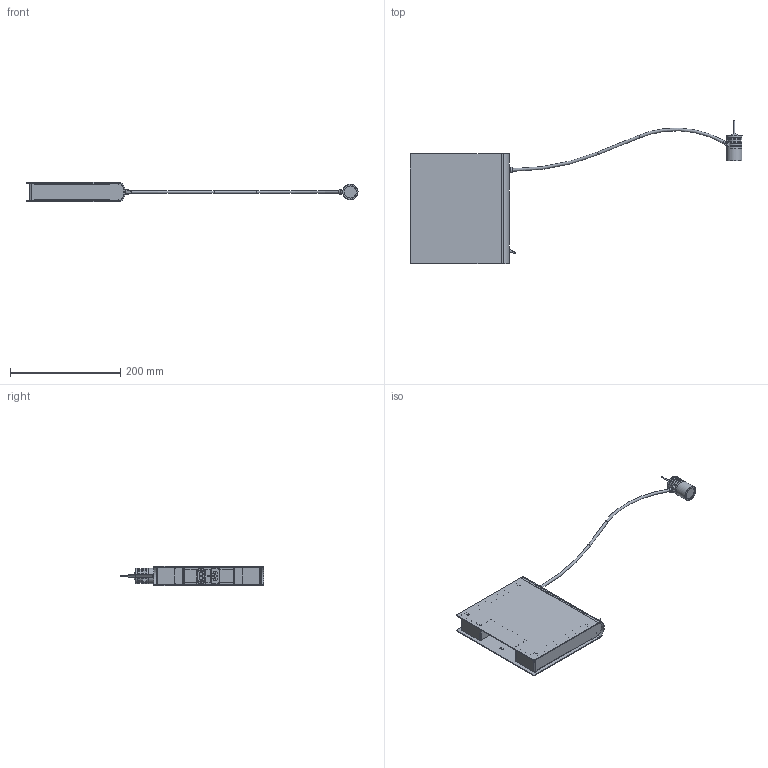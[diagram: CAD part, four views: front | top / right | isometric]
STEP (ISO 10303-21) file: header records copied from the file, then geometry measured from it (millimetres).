
FILE_DESCRIPTION (( 'STEP AP203' ), '1' );
FILE_NAME ('Bib Luz.STEP', '2024-01-09T14:30:29', ( '' ), ( '' ), 'SwSTEP 2.0', 'SolidWorks 2021', '' );
FILE_SCHEMA (( 'CONFIG_CONTROL_DESIGN' ));
Products named in the file (1): Bib Luz
Bounding box: 602.13 x 260.9 x 35 mm (x, y, z)
Volume: 230198.3 mm3; surface area: 261753.5 mm2
Topology: 2 solids, 2 shells, 1074 faces, 3049 edges, 2068 vertices
Faces by surface type: plane 582, cylinder 231, bspline 206, torus 28, cone 19, sphere 8
Full cylindrical faces by diameter (mm): 1.8 x4, 2 x1, 2.5 x1, 3 x24, 5 x1, 8 x1, 10.1 x2, 14 x1, 22 x1, 28 x2
Entity records: 44418 total; most frequent: CARTESIAN_POINT 18369, ORIENTED_EDGE 5910, DIRECTION 4437, EDGE_CURVE 2955, VERTEX_POINT 2033, VECTOR 1689, LINE 1689, AXIS2_PLACEMENT_3D 1374
